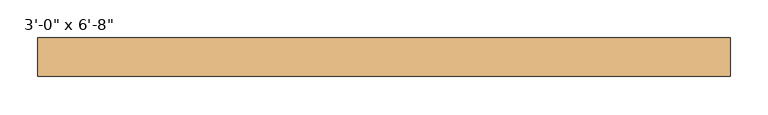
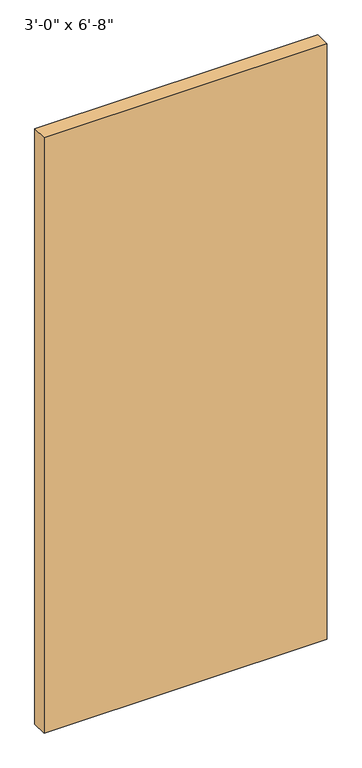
"""IFC4 building model written with IfcOpenShell, lengths in millimetres: door geometry."""

from ifc_helpers import new_model, si_unit, origin, origin_with_axes, place, context, project, spatial, polyline, outline, extrude, source, transform, mapped, element, save


def door_9f601fca(model_context):
    return source(origin(), model_context, "Body", "SweptSolid", [
        extrude(outline(polyline([(457.2, 12.5), (-457.2, 12.5), (-457.2, 63.5), (457.2, 63.5), (457.2, 12.5)])), origin_with_axes(), (0.0, 0.0, 1.0), 2032.0),
    ])


if __name__ == "__main__":
    model = new_model("IFC4")
    model_context = context("Model", 3, world=origin())
    ifc_project = project(units=[si_unit("LENGTHUNIT", "METRE", prefix="MILLI")], contexts=[model_context])
    site = spatial("IfcSite", under=ifc_project)
    building = spatial("IfcBuilding", under=site)
    placement = place(None, origin())
    door_shape = door_9f601fca(model_context)
    element("IfcDoor", 1, ObjectType="Planitar - Single Door_Flush Panel : 3'-0\" x 6'-8\"", at=placement, inside=building, context=model_context, shape_type="MappedRepresentation", body=[
        mapped(door_shape, transform((0.0, 0.0, 0.0), x_axis=(1.0, 0.0, 0.0), y_axis=(0.0, 1.0, 0.0), z_axis=(0.0, 0.0, 1.0))),
    ])
    save(model, "model.ifc")
